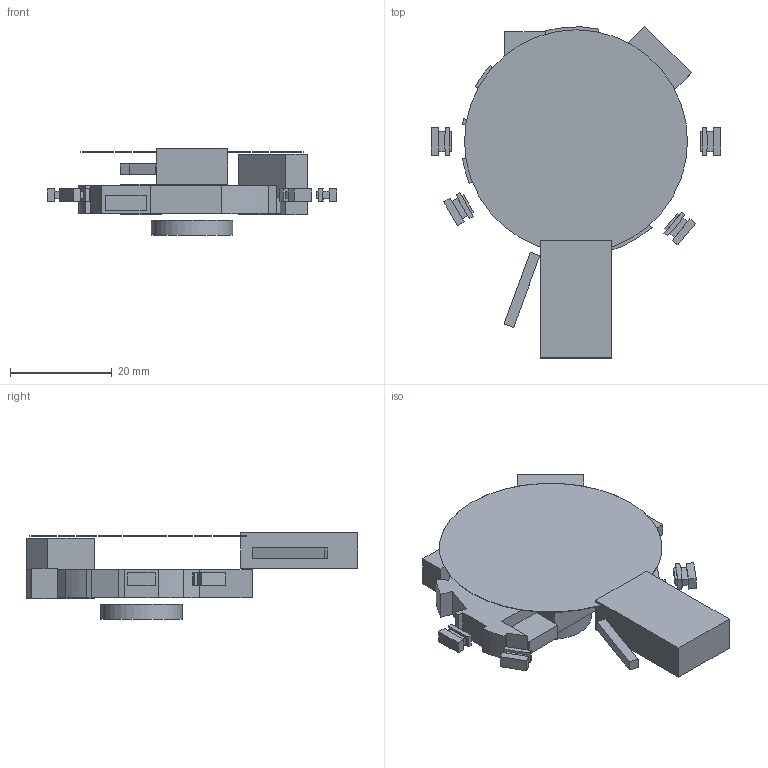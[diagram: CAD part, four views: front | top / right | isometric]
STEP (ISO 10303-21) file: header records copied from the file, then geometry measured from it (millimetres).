
FILE_DESCRIPTION(('Open CASCADE Model'),'2;1');
FILE_NAME('Open CASCADE Shape Model','2026-10-18T23:08:34',('Author'),( 'Open CASCADE'),'Open CASCADE STEP processor 7.9','Open CASCADE 7.9' ,'Unknown');
FILE_SCHEMA(('AUTOMOTIVE_DESIGN { 1 0 10303 214 1 1 1 1 }'));
Length unit declared in the file: millimetre
Products named in the file (14): UNREGISTERED_KEEPOUTS_NOT_COMPONENTS; KO_key_1_swept; KO_key_2_swept; KO_key_3_swept; KO_key_4_swept; KO_LRA_flex; KO_battery_installed; REF_visible_display_43_76; KO_FPC_route_UNREGISTERED; KO_RF_sector_UNREGISTERED; KO_USB_plug_UNREGISTERED; KO_reset_tool_UNREGISTERED; KO_protection_leads_UNSELECTED; KO_HR_UNALLOCATED_EXTERNAL_ONLY
Assembly tree (13 placements, depth 2):
  UNREGISTERED_KEEPOUTS_NOT_COMPONENTS
    KO_key_1_swept
    KO_key_2_swept
    KO_key_3_swept
    KO_key_4_swept
    KO_LRA_flex
    KO_battery_installed
    REF_visible_display_43_76
    KO_FPC_route_UNREGISTERED
    KO_RF_sector_UNREGISTERED
    KO_USB_plug_UNREGISTERED
    KO_reset_tool_UNREGISTERED
    KO_protection_leads_UNSELECTED
    KO_HR_UNALLOCATED_EXTERNAL_ONLY
Bounding box: 56.8 x 65.13 x 17 mm (x, y, z)
Volume: 9156.6 mm3; surface area: 9230.3 mm2
Topology: 13 solids, 13 shells, 158 faces, 360 edges, 240 vertices
Faces by surface type: plane 147, cylinder 11
Full cylindrical faces by diameter (mm): 16 x1, 43.76 x1
Entity records: 9296 total; most frequent: CARTESIAN_POINT 1736, DIRECTION 1285, LINE 866, VECTOR 866, ORIENTED_EDGE 720, PCURVE 720, DEFINITIONAL_REPRESENTATION 720, EDGE_CURVE 360
